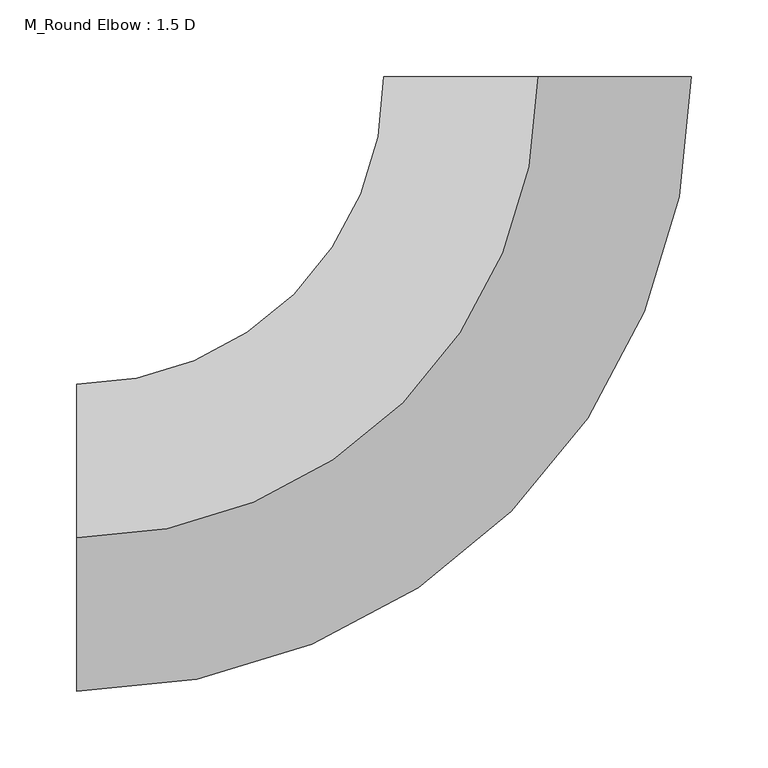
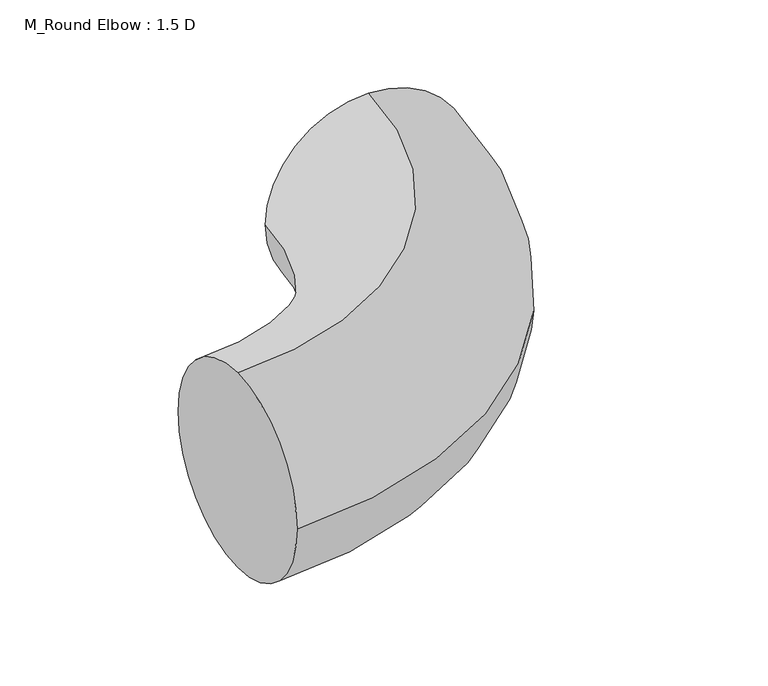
"""IFC4 building model written with IfcOpenShell, lengths in millimetres: duct fitting geometry, M_Round Elbow : 1.5 D."""

from ifc_helpers import new_model, si_unit, point, frame, origin, place, context, project, spatial, circle_curve, ellipse_curve, trimmed, source, transform, mapped, element, save
from ifc_brep_helpers import plane_surface, revolved_surface, advanced_brep


def m_round_elbow_1_5_d_9c795b01(model_context):
    return source(origin(), model_context, "Body", "AdvancedBrep", [
        advanced_brep(
        [(-300.001776, 0.0, 100.0), (-300.001776, 100.0, 0.0), (-300.001776, 0.0, -100.0), (-300.001776, -100.0, 0.0), (-0.001776, 300.001776, 100.0), (99.998224, 300.002368, 0.0), (-0.001776, 300.001776, -100.0), (-100.001776, 300.001184, 0.0)],
        [
            (0, 1, circle_curve(frame((-300.001776, 0.0, 0.0), z_axis=(-1.0, 0.0, 0.0), x_axis=(0.0, 1.0, 0.0)), 100.0)),
            (1, 2, circle_curve(frame((-300.001776, 0.0, 0.0), z_axis=(-1.0, 0.0, 0.0), x_axis=(0.0, 1.0, 0.0)), 100.0)),
            (2, 3, circle_curve(frame((-300.001776, 0.0, 0.0), z_axis=(-1.0, 0.0, 0.0), x_axis=(0.0, 1.0, 0.0)), 100.0)),
            (3, 0, circle_curve(frame((-300.001776, 0.0, 0.0), z_axis=(-1.0, 0.0, 0.0), x_axis=(0.0, 1.0, 0.0)), 100.0)),
            (4, 5, circle_curve(frame((-0.001776, 300.001776, 0.0), z_axis=(-5.9200758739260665e-06, 0.9999999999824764, 0.0), x_axis=(-0.9999999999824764, -5.9200758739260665e-06, 0.0)), 100.0)),
            (5, 6, circle_curve(frame((-0.001776, 300.001776, 0.0), z_axis=(-5.9200758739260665e-06, 0.9999999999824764, 0.0), x_axis=(-0.9999999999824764, -5.9200758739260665e-06, 0.0)), 100.0)),
            (6, 7, circle_curve(frame((-0.001776, 300.001776, 0.0), z_axis=(-5.9200758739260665e-06, 0.9999999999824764, 0.0), x_axis=(-0.9999999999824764, -5.9200758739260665e-06, 0.0)), 100.0)),
            (7, 4, circle_curve(frame((-0.001776, 300.001776, 0.0), z_axis=(-5.9200758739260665e-06, 0.9999999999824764, 0.0), x_axis=(-0.9999999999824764, -5.9200758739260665e-06, 0.0)), 100.0)),
            (7, 1, circle_curve(frame((-300.001776, 300.0, 0.0), z_axis=(0.0, 0.0, -1.0), x_axis=(0.0, -1.0, 0.0)), 200.0)),
            (0, 4, circle_curve(frame((-300.001776, 300.0, 100.0), z_axis=(0.0, 0.0, 1.0), x_axis=(0.0, -1.0, 0.0)), 300.0)),
            (6, 2, circle_curve(frame((-300.001776, 300.0, -100.0), z_axis=(0.0, 0.0, -1.0), x_axis=(0.0, -1.0, 0.0)), 300.0)),
            (5, 3, circle_curve(frame((-300.001776, 300.0, 0.0), z_axis=(0.0, 0.0, -1.0), x_axis=(0.0, -1.0, 0.0)), 400.0)),
        ],
        [
            plane_surface(frame((-300.001776, 0.0, 0.0), z_axis=(-1.0, 0.0, 0.0), x_axis=(0.0, 0.0, 1.0))),
            plane_surface(frame((-0.001776, 300.001776, 0.0), z_axis=(-5.920075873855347e-06, 0.9999999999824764, 0.0), x_axis=(0.0, 0.0, 1.0))),
            revolved_surface(trimmed(ellipse_curve(frame((-300.001776, 0.0, 0.0), z_axis=(-1.0, 0.0, 0.0), x_axis=(0.0, 1.0, 0.0)), 100.0, 100.0), [point((-300.001776, 0.0, 100.0))], [point((-300.001776, 100.0, 0.0))], True, "CARTESIAN"), (-300.001776, 300.0, 0.0), (0.0, 0.0, 1.0)),
            revolved_surface(trimmed(ellipse_curve(frame((-300.001776, 0.0, 0.0), z_axis=(-1.0, 0.0, 0.0), x_axis=(0.0, 1.0, 0.0)), 100.0, 100.0), [point((-300.001776, 100.0, 0.0))], [point((-300.001776, 0.0, -100.0))], True, "CARTESIAN"), (-300.001776, 300.0, 0.0), (0.0, 0.0, 1.0)),
            revolved_surface(trimmed(ellipse_curve(frame((-300.001776, 0.0, 0.0), z_axis=(-1.0, 0.0, 0.0), x_axis=(0.0, 1.0, 0.0)), 100.0, 100.0), [point((-300.001776, 0.0, -100.0))], [point((-300.001776, -100.0, 0.0))], True, "CARTESIAN"), (-300.001776, 300.0, 0.0), (0.0, 0.0, 1.0)),
            revolved_surface(trimmed(ellipse_curve(frame((-300.001776, 0.0, 0.0), z_axis=(-1.0, 0.0, 0.0), x_axis=(0.0, 1.0, 0.0)), 100.0, 100.0), [point((-300.001776, -100.0, 0.0))], [point((-300.001776, 0.0, 100.0))], True, "CARTESIAN"), (-300.001776, 300.0, 0.0), (0.0, 0.0, 1.0)),
        ],
        [
            (0, [[1, 2, 3, 4]]),
            (1, [[5, 6, 7, 8]]),
            (2, [[9, -1, 10, -8]]),
            (3, [[11, -2, -9, -7]]),
            (4, [[12, -3, -11, -6]]),
            (5, [[-10, -4, -12, -5]]),
        ],
    ),
        advanced_brep(
        [(-300.001776, 0.0, 100.0), (-300.001776, 100.0, 0.0), (-300.001776, 0.0, -100.0), (-300.001776, -100.0, 0.0), (-0.001776, 300.001776, 100.0), (99.998224, 300.002368, 0.0), (-0.001776, 300.001776, -100.0), (-100.001776, 300.001184, 0.0)],
        [
            (0, 1, circle_curve(frame((-300.001776, 0.0, 0.0), z_axis=(-1.0, 0.0, 0.0), x_axis=(0.0, 1.0, 0.0)), 100.0)),
            (1, 2, circle_curve(frame((-300.001776, 0.0, 0.0), z_axis=(-1.0, 0.0, 0.0), x_axis=(0.0, 1.0, 0.0)), 100.0)),
            (2, 3, circle_curve(frame((-300.001776, 0.0, 0.0), z_axis=(-1.0, 0.0, 0.0), x_axis=(0.0, 1.0, 0.0)), 100.0)),
            (3, 0, circle_curve(frame((-300.001776, 0.0, 0.0), z_axis=(-1.0, 0.0, 0.0), x_axis=(0.0, 1.0, 0.0)), 100.0)),
            (4, 5, circle_curve(frame((-0.001776, 300.001776, 0.0), z_axis=(-5.9200758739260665e-06, 0.9999999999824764, 0.0), x_axis=(-0.9999999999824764, -5.9200758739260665e-06, 0.0)), 100.0)),
            (5, 6, circle_curve(frame((-0.001776, 300.001776, 0.0), z_axis=(-5.9200758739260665e-06, 0.9999999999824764, 0.0), x_axis=(-0.9999999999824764, -5.9200758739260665e-06, 0.0)), 100.0)),
            (6, 7, circle_curve(frame((-0.001776, 300.001776, 0.0), z_axis=(-5.9200758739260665e-06, 0.9999999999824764, 0.0), x_axis=(-0.9999999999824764, -5.9200758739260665e-06, 0.0)), 100.0)),
            (7, 4, circle_curve(frame((-0.001776, 300.001776, 0.0), z_axis=(-5.9200758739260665e-06, 0.9999999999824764, 0.0), x_axis=(-0.9999999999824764, -5.9200758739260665e-06, 0.0)), 100.0)),
            (7, 1, circle_curve(frame((-300.001776, 300.0, 0.0), z_axis=(0.0, 0.0, -1.0), x_axis=(0.0, -1.0, 0.0)), 200.0)),
            (0, 4, circle_curve(frame((-300.001776, 300.0, 100.0), z_axis=(0.0, 0.0, 1.0), x_axis=(0.0, -1.0, 0.0)), 300.0)),
            (6, 2, circle_curve(frame((-300.001776, 300.0, -100.0), z_axis=(0.0, 0.0, -1.0), x_axis=(0.0, -1.0, 0.0)), 300.0)),
            (5, 3, circle_curve(frame((-300.001776, 300.0, 0.0), z_axis=(0.0, 0.0, -1.0), x_axis=(0.0, -1.0, 0.0)), 400.0)),
        ],
        [
            plane_surface(frame((-300.001776, 0.0, 0.0), z_axis=(-1.0, 0.0, 0.0), x_axis=(0.0, 0.0, 1.0))),
            plane_surface(frame((-0.001776, 300.001776, 0.0), z_axis=(-5.920075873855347e-06, 0.9999999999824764, 0.0), x_axis=(0.0, 0.0, 1.0))),
            revolved_surface(trimmed(ellipse_curve(frame((-300.001776, 0.0, 0.0), z_axis=(-1.0, 0.0, 0.0), x_axis=(0.0, 1.0, 0.0)), 100.0, 100.0), [point((-300.001776, 0.0, 100.0))], [point((-300.001776, 100.0, 0.0))], True, "CARTESIAN"), (-300.001776, 300.0, 0.0), (0.0, 0.0, 1.0)),
            revolved_surface(trimmed(ellipse_curve(frame((-300.001776, 0.0, 0.0), z_axis=(-1.0, 0.0, 0.0), x_axis=(0.0, 1.0, 0.0)), 100.0, 100.0), [point((-300.001776, 100.0, 0.0))], [point((-300.001776, 0.0, -100.0))], True, "CARTESIAN"), (-300.001776, 300.0, 0.0), (0.0, 0.0, 1.0)),
            revolved_surface(trimmed(ellipse_curve(frame((-300.001776, 0.0, 0.0), z_axis=(-1.0, 0.0, 0.0), x_axis=(0.0, 1.0, 0.0)), 100.0, 100.0), [point((-300.001776, 0.0, -100.0))], [point((-300.001776, -100.0, 0.0))], True, "CARTESIAN"), (-300.001776, 300.0, 0.0), (0.0, 0.0, 1.0)),
            revolved_surface(trimmed(ellipse_curve(frame((-300.001776, 0.0, 0.0), z_axis=(-1.0, 0.0, 0.0), x_axis=(0.0, 1.0, 0.0)), 100.0, 100.0), [point((-300.001776, -100.0, 0.0))], [point((-300.001776, 0.0, 100.0))], True, "CARTESIAN"), (-300.001776, 300.0, 0.0), (0.0, 0.0, 1.0)),
        ],
        [
            (0, [[1, 2, 3, 4]]),
            (1, [[5, 6, 7, 8]]),
            (2, [[9, -1, 10, -8]]),
            (3, [[11, -2, -9, -7]]),
            (4, [[12, -3, -11, -6]]),
            (5, [[-10, -4, -12, -5]]),
        ],
    ),
        advanced_brep(
        [(-300.001776, 0.0, 100.0), (-300.001776, 100.0, 0.0), (-300.001776, 0.0, -100.0), (-300.001776, -100.0, 0.0), (-0.001776, 300.001776, 100.0), (99.998224, 300.002368, 0.0), (-0.001776, 300.001776, -100.0), (-100.001776, 300.001184, 0.0)],
        [
            (0, 1, circle_curve(frame((-300.001776, 0.0, 0.0), z_axis=(-1.0, 0.0, 0.0), x_axis=(0.0, 1.0, 0.0)), 100.0)),
            (1, 2, circle_curve(frame((-300.001776, 0.0, 0.0), z_axis=(-1.0, 0.0, 0.0), x_axis=(0.0, 1.0, 0.0)), 100.0)),
            (2, 3, circle_curve(frame((-300.001776, 0.0, 0.0), z_axis=(-1.0, 0.0, 0.0), x_axis=(0.0, 1.0, 0.0)), 100.0)),
            (3, 0, circle_curve(frame((-300.001776, 0.0, 0.0), z_axis=(-1.0, 0.0, 0.0), x_axis=(0.0, 1.0, 0.0)), 100.0)),
            (4, 5, circle_curve(frame((-0.001776, 300.001776, 0.0), z_axis=(-5.9200758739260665e-06, 0.9999999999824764, 0.0), x_axis=(-0.9999999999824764, -5.9200758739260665e-06, 0.0)), 100.0)),
            (5, 6, circle_curve(frame((-0.001776, 300.001776, 0.0), z_axis=(-5.9200758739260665e-06, 0.9999999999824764, 0.0), x_axis=(-0.9999999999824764, -5.9200758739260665e-06, 0.0)), 100.0)),
            (6, 7, circle_curve(frame((-0.001776, 300.001776, 0.0), z_axis=(-5.9200758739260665e-06, 0.9999999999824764, 0.0), x_axis=(-0.9999999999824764, -5.9200758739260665e-06, 0.0)), 100.0)),
            (7, 4, circle_curve(frame((-0.001776, 300.001776, 0.0), z_axis=(-5.9200758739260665e-06, 0.9999999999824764, 0.0), x_axis=(-0.9999999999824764, -5.9200758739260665e-06, 0.0)), 100.0)),
            (7, 1, circle_curve(frame((-300.001776, 300.0, 0.0), z_axis=(0.0, 0.0, -1.0), x_axis=(0.0, -1.0, 0.0)), 200.0)),
            (0, 4, circle_curve(frame((-300.001776, 300.0, 100.0), z_axis=(0.0, 0.0, 1.0), x_axis=(0.0, -1.0, 0.0)), 300.0)),
            (6, 2, circle_curve(frame((-300.001776, 300.0, -100.0), z_axis=(0.0, 0.0, -1.0), x_axis=(0.0, -1.0, 0.0)), 300.0)),
            (5, 3, circle_curve(frame((-300.001776, 300.0, 0.0), z_axis=(0.0, 0.0, -1.0), x_axis=(0.0, -1.0, 0.0)), 400.0)),
        ],
        [
            plane_surface(frame((-300.001776, 0.0, 0.0), z_axis=(-1.0, 0.0, 0.0), x_axis=(0.0, 0.0, 1.0))),
            plane_surface(frame((-0.001776, 300.001776, 0.0), z_axis=(-5.920075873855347e-06, 0.9999999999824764, 0.0), x_axis=(0.0, 0.0, 1.0))),
            revolved_surface(trimmed(ellipse_curve(frame((-300.001776, 0.0, 0.0), z_axis=(-1.0, 0.0, 0.0), x_axis=(0.0, 1.0, 0.0)), 100.0, 100.0), [point((-300.001776, 0.0, 100.0))], [point((-300.001776, 100.0, 0.0))], True, "CARTESIAN"), (-300.001776, 300.0, 0.0), (0.0, 0.0, 1.0)),
            revolved_surface(trimmed(ellipse_curve(frame((-300.001776, 0.0, 0.0), z_axis=(-1.0, 0.0, 0.0), x_axis=(0.0, 1.0, 0.0)), 100.0, 100.0), [point((-300.001776, 100.0, 0.0))], [point((-300.001776, 0.0, -100.0))], True, "CARTESIAN"), (-300.001776, 300.0, 0.0), (0.0, 0.0, 1.0)),
            revolved_surface(trimmed(ellipse_curve(frame((-300.001776, 0.0, 0.0), z_axis=(-1.0, 0.0, 0.0), x_axis=(0.0, 1.0, 0.0)), 100.0, 100.0), [point((-300.001776, 0.0, -100.0))], [point((-300.001776, -100.0, 0.0))], True, "CARTESIAN"), (-300.001776, 300.0, 0.0), (0.0, 0.0, 1.0)),
            revolved_surface(trimmed(ellipse_curve(frame((-300.001776, 0.0, 0.0), z_axis=(-1.0, 0.0, 0.0), x_axis=(0.0, 1.0, 0.0)), 100.0, 100.0), [point((-300.001776, -100.0, 0.0))], [point((-300.001776, 0.0, 100.0))], True, "CARTESIAN"), (-300.001776, 300.0, 0.0), (0.0, 0.0, 1.0)),
        ],
        [
            (0, [[1, 2, 3, 4]]),
            (1, [[5, 6, 7, 8]]),
            (2, [[9, -1, 10, -8]]),
            (3, [[11, -2, -9, -7]]),
            (4, [[12, -3, -11, -6]]),
            (5, [[-10, -4, -12, -5]]),
        ],
    ),
    ])


if __name__ == "__main__":
    model = new_model("IFC4")
    model_context = context("Model", 3, world=origin())
    ifc_project = project(units=[si_unit("LENGTHUNIT", "METRE", prefix="MILLI")], contexts=[model_context])
    site = spatial("IfcSite", under=ifc_project)
    building = spatial("IfcBuilding", under=site)
    placement = place(None, origin())
    m_round_elbow_1_5_d_shape = m_round_elbow_1_5_d_9c795b01(model_context)
    element("IfcDuctFitting", 1, ObjectType="M_Round Elbow : 1.5 D", at=placement, inside=building, context=model_context, shape_type="MappedRepresentation", body=[
        mapped(m_round_elbow_1_5_d_shape, transform((0.0, 0.0, 0.0), x_axis=(1.0, 0.0, 0.0), y_axis=(0.0, 1.0, 0.0), z_axis=(0.0, 0.0, 1.0))),
    ])
    save(model, "model.ifc")
